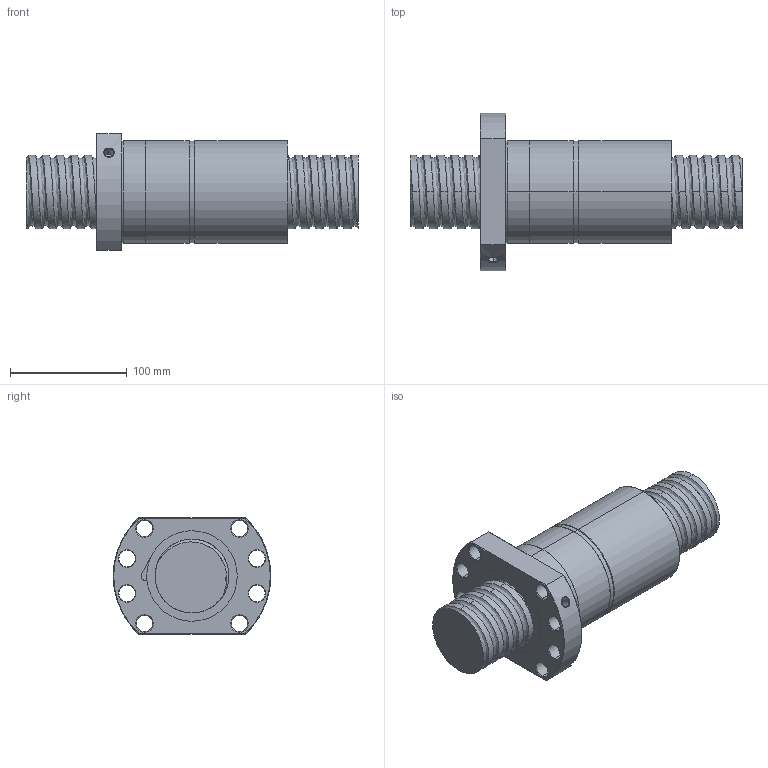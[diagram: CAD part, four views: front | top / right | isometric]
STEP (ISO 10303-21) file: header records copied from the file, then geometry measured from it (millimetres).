
FILE_DESCRIPTION (( 'STEP AP214' ), '1' );
FILE_NAME ('FDDC06310T5-F-C.STEP', '2010-07-07T01:48:35', ( 'XPAUTO' ), ( 'XPAUTO' ), 'SwSTEP 2.0', 'SolidWorks 2007', '' );
FILE_SCHEMA (( 'AUTOMOTIVE_DESIGN' ));
Length unit declared in the file: millimetre
Products named in the file (3): FDDC06310T5-F-C; FDDC06310T5-F-C.sldasm-Part-2_預設; FDDC06310T5-F-C.sldasm-Part-1_預設
Assembly tree (2 placements, depth 2):
  FDDC06310T5-F-C
    FDDC06310T5-F-C.sldasm-Part-2_預設
    FDDC06310T5-F-C.sldasm-Part-1_預設
Bounding box: 284 x 135 x 100 mm (x, y, z)
Volume: 1417667.5 mm3; surface area: 176859 mm2
Topology: 2 solids, 2 shells, 163 faces, 407 edges, 253 vertices
Faces by surface type: cylinder 94, cone 32, plane 22, torus 10, bspline 5
Entity records: 47446 total; most frequent: CARTESIAN_POINT 43600, ORIENTED_EDGE 814, DIRECTION 743, EDGE_CURVE 407, AXIS2_PLACEMENT_3D 300, VERTEX_POINT 253, EDGE_LOOP 188, FACE_OUTER_BOUND 163
